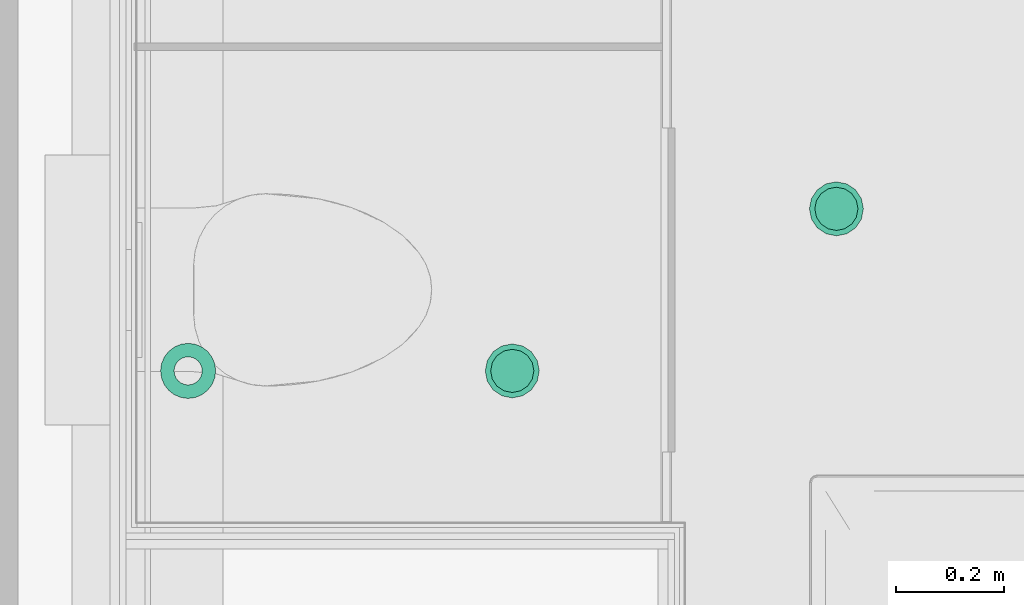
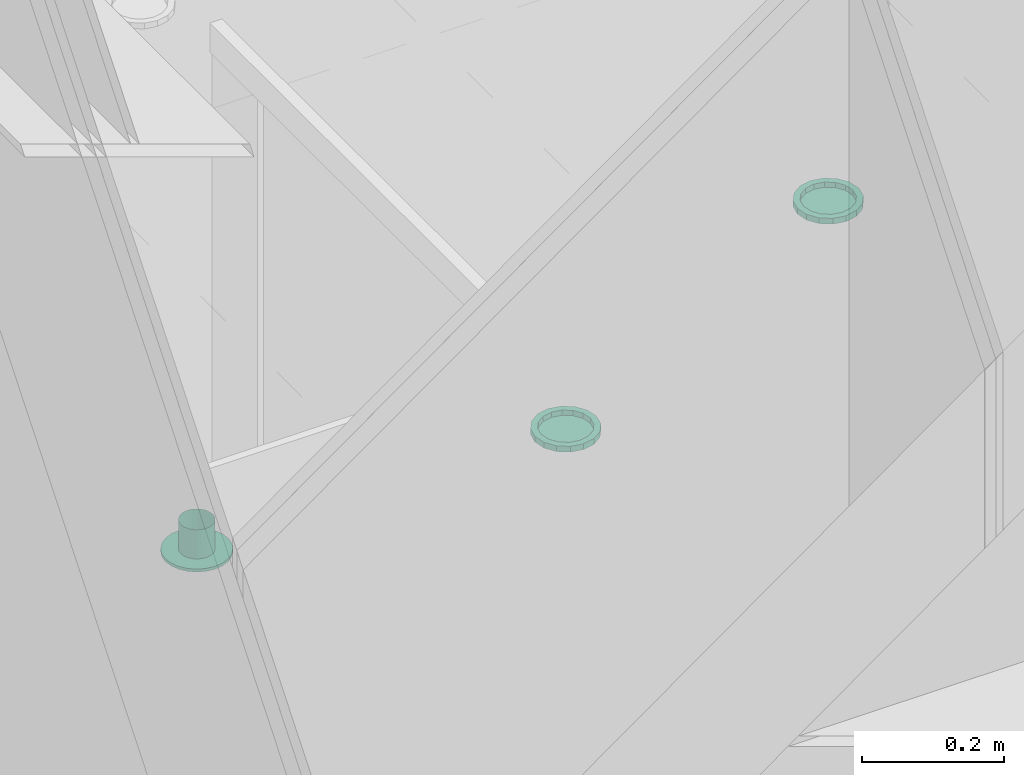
# One storey, part 194 of 347: 3 flow terminals.
"""IFC2X3 building model written with IfcOpenShell, lengths in millimetres."""

from ifc_helpers import new_model, entity, si_unit, converted_unit, derived_unit, money_unit, direction, frame, origin_with_axes, place, context, subcontext, project, spatial, open_shell, faceted_brep, surface_model, source, transform, mapped, type_object, type_shapes, element, save


model = new_model("IFC2X3")

# Units and contexts
model_context = context("Model", 3, precision=0.01, world=origin_with_axes(), true_north=direction((0.0, 1.0)))
plan_context = context("Plan", 3, precision=0.01, world=origin_with_axes(), true_north=direction((0.0, 1.0)))
body_context = subcontext(model_context, "Body", "Model", "MODEL_VIEW")
ifc_project = project(units=[si_unit("LENGTHUNIT", "METRE", prefix="MILLI"), si_unit("AREAUNIT", "SQUARE_METRE"), si_unit("VOLUMEUNIT", "CUBIC_METRE"), converted_unit("PLANEANGLEUNIT", "DEGREE", entity("IfcPlaneAngleMeasure", 0.0174532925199), si_unit("PLANEANGLEUNIT", "RADIAN"), dimensions=[0, 0, 0, 0, 0, 0, 0]), money_unit("EUR"), converted_unit("TIMEUNIT", "Year", entity("IfcTimeMeasure", 31556926.0), si_unit("TIMEUNIT", "SECOND"), dimensions=[0, 0, 1, 0, 0, 0, 0]), si_unit("MASSUNIT", "GRAM", prefix="KILO"), si_unit("THERMODYNAMICTEMPERATUREUNIT", "DEGREE_CELSIUS"), si_unit("LUMINOUSINTENSITYUNIT", "LUMEN"), si_unit("ENERGYUNIT", "JOULE", prefix="MEGA"), derived_unit("THERMALCONDUCTANCEUNIT", [(si_unit("POWERUNIT", "WATT"), 1), (si_unit("LENGTHUNIT", "METRE"), -1), (si_unit("THERMODYNAMICTEMPERATUREUNIT", "KELVIN"), -1)]), derived_unit("SPECIFICHEATCAPACITYUNIT", [(si_unit("ENERGYUNIT", "JOULE"), 1), (si_unit("MASSUNIT", "GRAM", prefix="KILO"), -1), (si_unit("THERMODYNAMICTEMPERATUREUNIT", "KELVIN"), -1)]), derived_unit("MASSDENSITYUNIT", [(si_unit("MASSUNIT", "GRAM", prefix="KILO"), 1), (si_unit("VOLUMEUNIT", "CUBIC_METRE"), -1)])], contexts=[model_context, plan_context])

# Site, building, storey
site_placement = place(None, origin_with_axes())
site = spatial("IfcSite", under=ifc_project, at=site_placement, Name="Site", CompositionType="ELEMENT")
building_placement = place(site_placement, origin_with_axes())
building = spatial("IfcBuilding", under=site, at=building_placement, Name="Naam gebouw", CompositionType="ELEMENT")
storey_placement = place(building_placement, origin_with_axes())
storey = spatial("IfcBuildingStorey", under=building, at=storey_placement, Name="begane grond", CompositionType="ELEMENT", Elevation=0.0)

# Flow terminals
lamp_type = type_object("IfcLampType", Name="Spot plafond 01 25", PredefinedType="NOTDEFINED")
shared_shape_1 = source(origin_with_axes(), body_context, "Body", "SurfaceModel", [
    faceted_brep([(50.0, 0.0, -10.0), (46.1939766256, 19.1341716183, -10.0), (46.1939766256, 19.1341716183, 0.0), (50.0, 0.0, 0.0), (46.1939766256, -19.1341716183, -10.0), (35.3553390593, -35.3553390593, -10.0), (19.1341716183, -46.1939766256, -10.0), (0.0, -50.0, -10.0), (-19.1341716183, -46.1939766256, -10.0), (-35.3553390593, -35.3553390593, -10.0), (-46.1939766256, -19.1341716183, -10.0), (-50.0, 0.0, -10.0), (-46.1939766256, 19.1341716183, -10.0), (-35.3553390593, 35.3553390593, -10.0), (-19.1341716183, 46.1939766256, -10.0), (0.0, 50.0, -10.0), (19.1341716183, 46.1939766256, -10.0), (35.3553390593, 35.3553390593, -10.0), (40.0, 0.0, -10.0), (36.9551813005, 15.3073372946, -10.0), (28.2842712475, 28.2842712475, -10.0), (15.3073372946, 36.9551813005, -10.0), (0.0, 40.0, -10.0), (-15.3073372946, 36.9551813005, -10.0), (-28.2842712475, 28.2842712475, -10.0), (-36.9551813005, 15.3073372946, -10.0), (-40.0, 0.0, -10.0), (-36.9551813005, -15.3073372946, -10.0), (-28.2842712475, -28.2842712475, -10.0), (-15.3073372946, -36.9551813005, -10.0), (0.0, -40.0, -10.0), (15.3073372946, -36.9551813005, -10.0), (28.2842712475, -28.2842712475, -10.0), (36.9551813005, -15.3073372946, -10.0), (35.3553390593, 35.3553390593, 0.0), (19.1341716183, 46.1939766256, 0.0), (0.0, 50.0, 0.0), (-19.1341716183, 46.1939766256, 0.0), (-35.3553390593, 35.3553390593, 0.0), (-46.1939766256, 19.1341716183, 0.0), (-50.0, 0.0, 0.0), (-46.1939766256, -19.1341716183, 0.0), (-35.3553390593, -35.3553390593, 0.0), (-19.1341716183, -46.1939766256, 0.0), (0.0, -50.0, 0.0), (19.1341716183, -46.1939766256, 0.0), (35.3553390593, -35.3553390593, 0.0), (46.1939766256, -19.1341716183, 0.0), (40.0, 0.0, 0.0), (36.9551813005, -15.3073372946, 0.0), (28.2842712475, -28.2842712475, 0.0), (15.3073372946, -36.9551813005, 0.0), (0.0, -40.0, 0.0), (-15.3073372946, -36.9551813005, 0.0), (-28.2842712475, -28.2842712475, 0.0), (-36.9551813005, -15.3073372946, 0.0), (-40.0, 0.0, 0.0), (-36.9551813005, 15.3073372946, 0.0), (-28.2842712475, 28.2842712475, 0.0), (-15.3073372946, 36.9551813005, 0.0), (0.0, 40.0, 0.0), (15.3073372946, 36.9551813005, 0.0), (28.2842712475, 28.2842712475, 0.0), (36.9551813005, 15.3073372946, 0.0)], [[[0, 1, 2, 3]], [[0, 4, 5, 6, 7, 8, 9, 10, 11, 12, 13, 14, 15, 16, 17, 1], [18, 19, 20, 21, 22, 23, 24, 25, 26, 27, 28, 29, 30, 31, 32, 33]], [[1, 17, 34, 2]], [[3, 2, 34, 35, 36, 37, 38, 39, 40, 41, 42, 43, 44, 45, 46, 47], [48, 49, 50, 51, 52, 53, 54, 55, 56, 57, 58, 59, 60, 61, 62, 63]], [[4, 0, 3, 47]], [[5, 4, 47, 46]], [[6, 5, 46, 45]], [[7, 6, 45, 44]], [[8, 7, 44, 43]], [[9, 8, 43, 42]], [[10, 9, 42, 41]], [[11, 10, 41, 40]], [[12, 11, 40, 39]], [[13, 12, 39, 38]], [[14, 13, 38, 37]], [[15, 14, 37, 36]], [[16, 15, 36, 35]], [[17, 16, 35, 34]], [[19, 18, 48, 63]], [[20, 19, 63, 62]], [[21, 20, 62, 61]], [[22, 21, 61, 60]], [[23, 22, 60, 59]], [[24, 23, 59, 58]], [[25, 24, 58, 57]], [[26, 25, 57, 56]], [[27, 26, 56, 55]], [[28, 27, 55, 54]], [[29, 28, 54, 53]], [[30, 29, 53, 52]], [[31, 30, 52, 51]], [[32, 31, 51, 50]], [[33, 32, 50, 49]], [[18, 33, 49, 48]]]),
    surface_model("IfcShellBasedSurfaceModel", [(40.0, 0.0, -8.9), (36.9551813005, -15.3073372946, -8.9), (28.2842712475, -28.2842712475, -8.9), (15.3073372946, -36.9551813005, -8.9), (0.0, -40.0, -8.9), (-15.3073372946, -36.9551813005, -8.9), (-28.2842712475, -28.2842712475, -8.9), (-36.9551813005, -15.3073372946, -8.9), (-40.0, 0.0, -8.9), (-36.9551813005, 15.3073372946, -8.9), (-28.2842712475, 28.2842712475, -8.9), (-15.3073372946, 36.9551813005, -8.9), (0.0, 40.0, -8.9), (15.3073372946, 36.9551813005, -8.9), (28.2842712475, 28.2842712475, -8.9), (36.9551813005, 15.3073372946, -8.9)], [open_shell([[[0, 1, 2, 3, 4, 5, 6, 7, 8, 9, 10, 11, 12, 13, 14, 15]]])]),
])
type_shapes(lamp_type, [shared_shape_1])
for number, where, z_axis, x_axis, name in (
    (1, (5975.00002634, 12900.0, 2600.0), (0.0, 0.0, 1.0), (1.0, 0.0, 0.0), "63_Lamp-x"),
    (2, (6575.00002634, 13200.0, 2600.0), (0.0, 0.0, 1.0), (1.0, 0.0, 0.0), "63_Lamp-x"),
):
    element("IfcFlowTerminal", number, at=place(storey_placement, frame(where, z_axis=z_axis, x_axis=x_axis)), inside=storey, type_object=lamp_type, Name=name, ObjectType="Lamp", context=body_context, shape_type="MappedRepresentation", body=[
        mapped(shared_shape_1, transform((0.0, 0.0, 0.0))),
    ])
air_terminal_type = type_object("IfcAirTerminalType", Name="Rooster plafond rond 25", PredefinedType="GRILLE")
shared_shape_2 = source(origin_with_axes(), body_context, "Body", "SurfaceModel", [
    faceted_brep([(51.0, 0.0, -5.0), (49.2622171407, 13.1997713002, -5.0), (49.2622171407, 13.1997713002, 0.0), (51.0, 0.0, 0.0), (49.2622171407, -13.1997713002, -5.0), (44.167295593, -25.5, -5.0), (36.0624458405, -36.0624458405, -5.0), (25.5, -44.167295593, -5.0), (13.1997713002, -49.2622171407, -5.0), (0.0, -51.0, -5.0), (-13.1997713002, -49.2622171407, -5.0), (-25.5, -44.167295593, -5.0), (-36.0624458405, -36.0624458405, -5.0), (-44.167295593, -25.5, -5.0), (-49.2622171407, -13.1997713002, -5.0), (-51.0, 0.0, -5.0), (-49.2622171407, 13.1997713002, -5.0), (-44.167295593, 25.5, -5.0), (-36.0624458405, 36.0624458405, -5.0), (-25.5, 44.167295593, -5.0), (-13.1997713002, 49.2622171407, -5.0), (0.0, 51.0, -5.0), (13.1997713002, 49.2622171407, -5.0), (25.5, 44.167295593, -5.0), (36.0624458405, 36.0624458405, -5.0), (44.167295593, 25.5, -5.0), (26.0, 0.0, -5.0), (25.1140714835, 6.72929517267, -5.0), (22.5166604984, 13.0, -5.0), (18.3847763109, 18.3847763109, -5.0), (13.0, 22.5166604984, -5.0), (6.72929517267, 25.1140714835, -5.0), (0.0, 26.0, -5.0), (-6.72929517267, 25.1140714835, -5.0), (-13.0, 22.5166604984, -5.0), (-18.3847763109, 18.3847763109, -5.0), (-22.5166604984, 13.0, -5.0), (-25.1140714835, 6.72929517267, -5.0), (-26.0, 0.0, -5.0), (-25.1140714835, -6.72929517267, -5.0), (-22.5166604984, -13.0, -5.0), (-18.3847763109, -18.3847763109, -5.0), (-13.0, -22.5166604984, -5.0), (-6.72929517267, -25.1140714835, -5.0), (0.0, -26.0, -5.0), (6.72929517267, -25.1140714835, -5.0), (13.0, -22.5166604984, -5.0), (18.3847763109, -18.3847763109, -5.0), (22.5166604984, -13.0, -5.0), (25.1140714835, -6.72929517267, -5.0), (44.167295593, 25.5, 0.0), (36.0624458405, 36.0624458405, 0.0), (25.5, 44.167295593, 0.0), (13.1997713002, 49.2622171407, 0.0), (0.0, 51.0, 0.0), (-13.1997713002, 49.2622171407, 0.0), (-25.5, 44.167295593, 0.0), (-36.0624458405, 36.0624458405, 0.0), (-44.167295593, 25.5, 0.0), (-49.2622171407, 13.1997713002, 0.0), (-51.0, 0.0, 0.0), (-49.2622171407, -13.1997713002, 0.0), (-44.167295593, -25.5, 0.0), (-36.0624458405, -36.0624458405, 0.0), (-25.5, -44.167295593, 0.0), (-13.1997713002, -49.2622171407, 0.0), (0.0, -51.0, 0.0), (13.1997713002, -49.2622171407, 0.0), (25.5, -44.167295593, 0.0), (36.0624458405, -36.0624458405, 0.0), (44.167295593, -25.5, 0.0), (49.2622171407, -13.1997713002, 0.0), (26.0, 0.0, 0.0), (25.1140714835, -6.72929517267, 0.0), (22.5166604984, -13.0, 0.0), (18.3847763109, -18.3847763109, 0.0), (13.0, -22.5166604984, 0.0), (6.72929517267, -25.1140714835, 0.0), (0.0, -26.0, 0.0), (-6.72929517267, -25.1140714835, 0.0), (-13.0, -22.5166604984, 0.0), (-18.3847763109, -18.3847763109, 0.0), (-22.5166604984, -13.0, 0.0), (-25.1140714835, -6.72929517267, 0.0), (-26.0, 0.0, 0.0), (-25.1140714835, 6.72929517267, 0.0), (-22.5166604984, 13.0, 0.0), (-18.3847763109, 18.3847763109, 0.0), (-13.0, 22.5166604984, 0.0), (-6.72929517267, 25.1140714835, 0.0), (0.0, 26.0, 0.0), (6.72929517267, 25.1140714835, 0.0), (13.0, 22.5166604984, 0.0), (18.3847763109, 18.3847763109, 0.0), (22.5166604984, 13.0, 0.0), (25.1140714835, 6.72929517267, 0.0)], [[[0, 1, 2, 3]], [[0, 4, 5, 6, 7, 8, 9, 10, 11, 12, 13, 14, 15, 16, 17, 18, 19, 20, 21, 22, 23, 24, 25, 1], [26, 27, 28, 29, 30, 31, 32, 33, 34, 35, 36, 37, 38, 39, 40, 41, 42, 43, 44, 45, 46, 47, 48, 49]], [[1, 25, 50, 2]], [[3, 2, 50, 51, 52, 53, 54, 55, 56, 57, 58, 59, 60, 61, 62, 63, 64, 65, 66, 67, 68, 69, 70, 71], [72, 73, 74, 75, 76, 77, 78, 79, 80, 81, 82, 83, 84, 85, 86, 87, 88, 89, 90, 91, 92, 93, 94, 95]], [[4, 0, 3, 71]], [[5, 4, 71, 70]], [[6, 5, 70, 69]], [[7, 6, 69, 68]], [[8, 7, 68, 67]], [[9, 8, 67, 66]], [[10, 9, 66, 65]], [[11, 10, 65, 64]], [[12, 11, 64, 63]], [[13, 12, 63, 62]], [[14, 13, 62, 61]], [[15, 14, 61, 60]], [[16, 15, 60, 59]], [[17, 16, 59, 58]], [[18, 17, 58, 57]], [[19, 18, 57, 56]], [[20, 19, 56, 55]], [[21, 20, 55, 54]], [[22, 21, 54, 53]], [[23, 22, 53, 52]], [[24, 23, 52, 51]], [[25, 24, 51, 50]], [[27, 26, 72, 95]], [[28, 27, 95, 94]], [[29, 28, 94, 93]], [[30, 29, 93, 92]], [[31, 30, 92, 91]], [[32, 31, 91, 90]], [[33, 32, 90, 89]], [[34, 33, 89, 88]], [[35, 34, 88, 87]], [[36, 35, 87, 86]], [[37, 36, 86, 85]], [[38, 37, 85, 84]], [[39, 38, 84, 83]], [[40, 39, 83, 82]], [[41, 40, 82, 81]], [[42, 41, 81, 80]], [[43, 42, 80, 79]], [[44, 43, 79, 78]], [[45, 44, 78, 77]], [[46, 45, 77, 76]], [[47, 46, 76, 75]], [[48, 47, 75, 74]], [[49, 48, 74, 73]], [[26, 49, 73, 72]]]),
    surface_model("IfcShellBasedSurfaceModel", [(0.0, -26.0, 0.0), (6.72929517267, -25.1140714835, 0.0), (6.72929517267, -25.1140714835, 50.0), (0.0, -26.0, 50.0), (13.0, -22.5166604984, 0.0), (13.0, -22.5166604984, 50.0), (-6.72929517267, -25.1140714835, 0.0), (-6.72929517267, -25.1140714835, 50.0), (18.3847763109, -18.3847763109, 0.0), (18.3847763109, -18.3847763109, 50.0), (-13.0, -22.5166604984, 0.0), (-13.0, -22.5166604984, 50.0), (22.5166604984, -13.0, 0.0), (22.5166604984, -13.0, 50.0), (-18.3847763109, -18.3847763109, 0.0), (-18.3847763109, -18.3847763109, 50.0), (25.1140714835, -6.72929517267, 0.0), (25.1140714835, -6.72929517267, 50.0), (-22.5166604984, -13.0, 0.0), (-22.5166604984, -13.0, 50.0), (26.0, 0.0, 0.0), (26.0, 0.0, 50.0), (-25.1140714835, -6.72929517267, 0.0), (-25.1140714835, -6.72929517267, 50.0), (25.1140714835, 6.72929517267, 0.0), (25.1140714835, 6.72929517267, 50.0), (-26.0, 0.0, 0.0), (-26.0, 0.0, 50.0), (22.5166604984, 13.0, 0.0), (22.5166604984, 13.0, 50.0), (-25.1140714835, 6.72929517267, 0.0), (-25.1140714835, 6.72929517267, 50.0), (18.3847763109, 18.3847763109, 0.0), (18.3847763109, 18.3847763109, 50.0), (-22.5166604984, 13.0, 0.0), (-22.5166604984, 13.0, 50.0), (13.0, 22.5166604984, 0.0), (13.0, 22.5166604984, 50.0), (-18.3847763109, 18.3847763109, 0.0), (-18.3847763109, 18.3847763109, 50.0), (6.72929517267, 25.1140714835, 0.0), (6.72929517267, 25.1140714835, 50.0), (-13.0, 22.5166604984, 0.0), (-13.0, 22.5166604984, 50.0), (0.0, 26.0, 0.0), (0.0, 26.0, 50.0), (-6.72929517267, 25.1140714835, 0.0), (-6.72929517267, 25.1140714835, 50.0)], [open_shell([[[0, 1, 2, 3]], [[1, 4, 5, 2]], [[6, 0, 3, 7]], [[4, 8, 9, 5]], [[10, 6, 7, 11]], [[8, 12, 13, 9]], [[14, 10, 11, 15]], [[12, 16, 17, 13]], [[18, 14, 15, 19]], [[16, 20, 21, 17]], [[22, 18, 19, 23]], [[20, 24, 25, 21]], [[26, 22, 23, 27]], [[24, 28, 29, 25]], [[30, 26, 27, 31]], [[28, 32, 33, 29]], [[34, 30, 31, 35]], [[32, 36, 37, 33]], [[38, 34, 35, 39]], [[36, 40, 41, 37]], [[42, 38, 39, 43]], [[40, 44, 45, 41]], [[46, 42, 43, 47]], [[44, 46, 47, 45]]])]),
])
type_shapes(air_terminal_type, [shared_shape_2])
flow_terminal_placement = place(storey_placement, frame((5375.00002634, 12900.0, 2600.0), z_axis=(0.0, 0.0, 1.0), x_axis=(1.0, 0.0, 0.0)))
element("IfcFlowTerminal", 3, at=flow_terminal_placement, inside=storey, type_object=air_terminal_type, Name="57_78 garderobe", context=body_context, shape_type="MappedRepresentation", body=[
    mapped(shared_shape_2, transform((0.0, 0.0, 0.0))),
])

save(model, "model.ifc")
